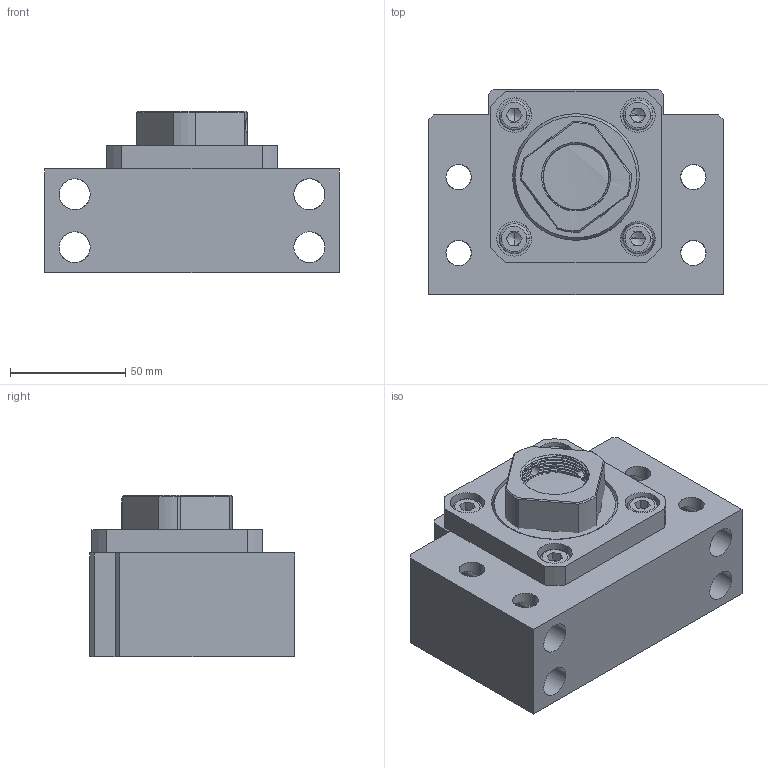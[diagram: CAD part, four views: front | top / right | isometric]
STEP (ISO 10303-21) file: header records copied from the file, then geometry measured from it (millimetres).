
FILE_DESCRIPTION (( 'STEP AP214' ), '1' );
FILE_NAME ('7.4006 BK30.STEP', '2026-03-05T13:57:44', ( '' ), ( '' ), 'SwSTEP 2.0', 'SolidWorks 2025', '' );
FILE_SCHEMA (( 'AUTOMOTIVE_DESIGN' ));
Length unit declared in the file: millimetre
Products named in the file (1): 7.4006 BK30
Bounding box: 128 x 89.1 x 70 mm (x, y, z)
Surface area: 74199.4 mm2 (no closed solid volume)
Topology: 0 solids, 18 shells, 291 faces, 829 edges, 544 vertices
Faces by surface type: plane 107, cylinder 97, cone 45, bspline 42
Entity records: 26930 total; most frequent: CARTESIAN_POINT 21108, ORIENTED_EDGE 1475, EDGE_CURVE 813, B_SPLINE_CURVE_WITH_KNOTS 776, VERTEX_POINT 544, DIRECTION 500, EDGE_LOOP 353, ADVANCED_FACE 291
